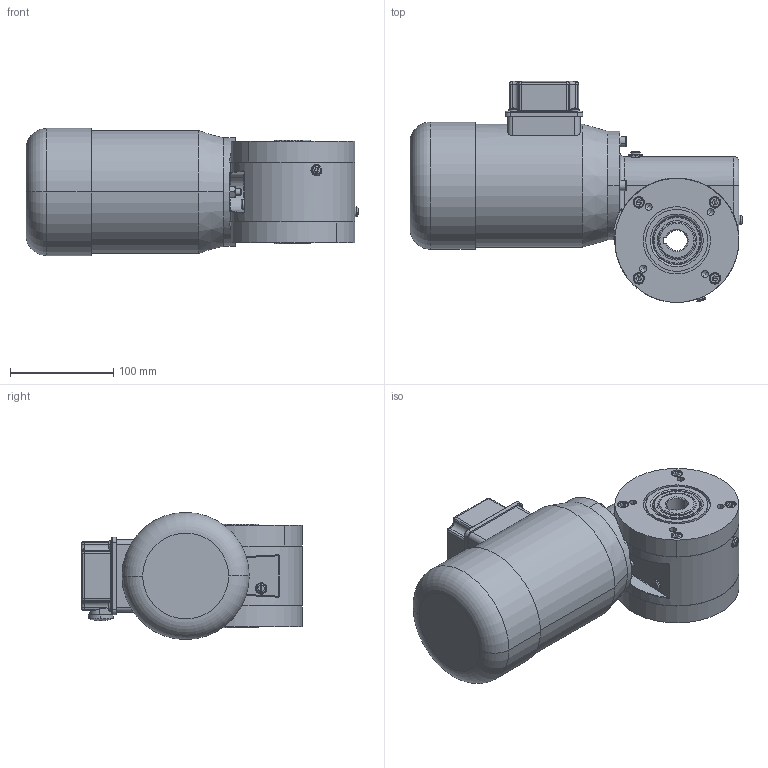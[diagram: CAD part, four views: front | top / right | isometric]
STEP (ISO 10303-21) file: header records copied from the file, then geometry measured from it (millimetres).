
FILE_DESCRIPTION (( 'STEP AP214' ), '1' );
FILE_NAME ('SN8BFH_180W_1400Upm_Drehstrom-Motor_D.STEP', '2021-09-21T06:33:27', ( '' ), ( '' ), 'SwSTEP 2.0', 'SolidWorks 2019', '' );
FILE_SCHEMA (( 'AUTOMOTIVE_DESIGN' ));
Length unit declared in the file: millimetre
Products named in the file (13): Kupferscheibe Ø6x10x1; 08FH-W-001_3D_Export; U-Seal Ring Ø5; socket set screw flat point_din_DIN 913 - M6 x 25-C; SN8BFH_3D_Export; hex nut style 1 gradeab_din_Hexagon Nut ISO 4032 - M6 - D - C; 08BFH-D-008_3D_Export; NBR_WDR_35x47x7; SN8BFH_180W_1400Upm_Drehstrom-Motor_D; 08B-G-003_3D_Export; socket head cap screw_din_DIN 912 M6 x 20 --- 20C; 08-M-166 I 180W_1400Upm; slotted pan head screw_din_DIN EN ISO 1580 - M5 x 6 - 6C
Assembly tree (37 placements, depth 3):
  SN8BFH_180W_1400Upm_Drehstrom-Motor_D
    SN8BFH_3D_Export
      08B-G-003_3D_Export
      08FH-W-001_3D_Export
      08BFH-D-008_3D_Export  x2
      NBR_WDR_35x47x7  x2
      socket head cap screw_din_DIN 912 M6 x 20 --- 20C  x11
      slotted pan head screw_din_DIN EN ISO 1580 - M5 x 6 - 6C  x4
      socket set screw flat point_din_DIN 913 - M6 x 25-C
      hex nut style 1 gradeab_din_Hexagon Nut ISO 4032 - M6 - D - C
      Kupferscheibe Ø6x10x1  x8
      U-Seal Ring Ø5  x4
    08-M-166 I 180W_1400Upm
Bounding box: 321 x 213.7 x 123 mm (x, y, z)
Volume: 3527337.8 mm3; surface area: 319230.4 mm2
Topology: 37 solids, 37 shells, 1213 faces, 2843 edges, 1740 vertices
Faces by surface type: cylinder 418, plane 370, cone 197, torus 182, sphere 24, bspline 22
Entity records: 26525 total; most frequent: CARTESIAN_POINT 7456, DIRECTION 4166, ORIENTED_EDGE 3698, EDGE_CURVE 1849, AXIS2_PLACEMENT_3D 1785, VERTEX_POINT 1162, CIRCLE 1005, EDGE_LOOP 849
